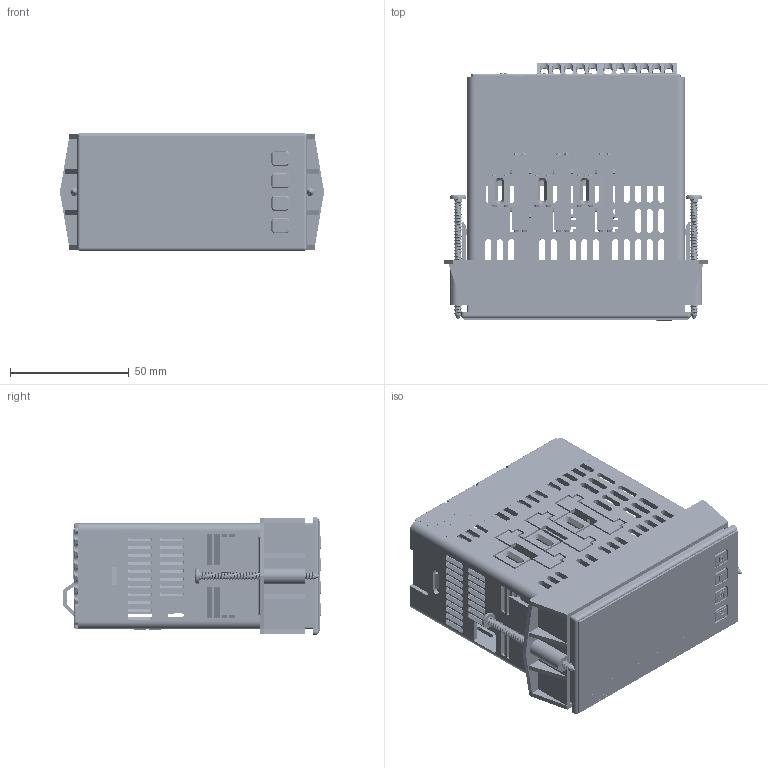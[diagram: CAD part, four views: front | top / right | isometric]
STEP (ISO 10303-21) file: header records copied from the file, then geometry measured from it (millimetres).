
FILE_DESCRIPTION(/* description */ ('Unknown'),/* implementation_level */ '2;1');
FILE_NAME(/* name */ 'PAX2S_STEP',/* time_stamp */ '2022-12-29T11:46:23-05:00',/* author */ ('Unknown'),/* organization */ ('Unknown'),/* preprocessor_version */ 'ST-DEVELOPER v16.7',/* originating_system */ 'DEX',/* authorisation */ $);
FILE_SCHEMA (('AUTOMOTIVE_DESIGN {1 0 10303 214 3 1 1}'));
Products named in the file (22): PAX2S; CA462300; GK004638 modified; M4401-opaque; CV002123; SB2B6930; SCOCDO87 LCD; HWM04630; M4354-0; PaxQuadRelay; HWMCLP09; Option Card 6 position (Generic)holes wrong; LABEL LB02238X; HWSTQP64; CV114626 ; Label LB04818_; LABEL LB04963X; CV462801; Label LB04959X; MSLB0025; Flex46 formed; CV114624
Assembly tree (22 placements, depth 2):
  PAX2S
    CA462300
    GK004638 modified
    M4401-opaque
    CV002123
    SB2B6930
    SCOCDO87 LCD
    HWM04630
    M4354-0
    PaxQuadRelay
    HWMCLP09
    Option Card 6 position (Generic)holes wrong
    LABEL LB02238X
    HWSTQP64  x2
    CV114626 
    Label LB04818_
    LABEL LB04963X
    CV462801
    Label LB04959X
    MSLB0025
    Flex46 formed
    CV114624
Bounding box: 111.07 x 108.71 x 49.53 mm (x, y, z)
Volume: 97887.2 mm3; surface area: 162277.8 mm2
Topology: 20 solids, 21 shells, 5821 faces, 15662 edges, 10266 vertices
Faces by surface type: plane 4330, cylinder 1117, bspline 297, cone 42, sphere 23, torus 12
Full cylindrical faces by diameter (mm): 1.372 x6, 1.651 x2, 3.226 x2, 3.505 x72, 5.004 x4, 5.715 x4, 6.68 x2, 7.239 x4
Entity records: 228780 total; most frequent: CARTESIAN_POINT 54042, ORIENTED_EDGE 30570, DIRECTION 28060, EDGE_CURVE 15285, LINE 12418, VECTOR 12418, VERTEX_POINT 10066, AXIS2_PLACEMENT_3D 7821
